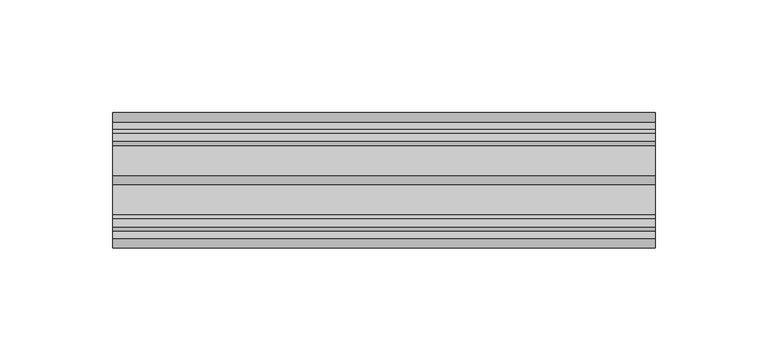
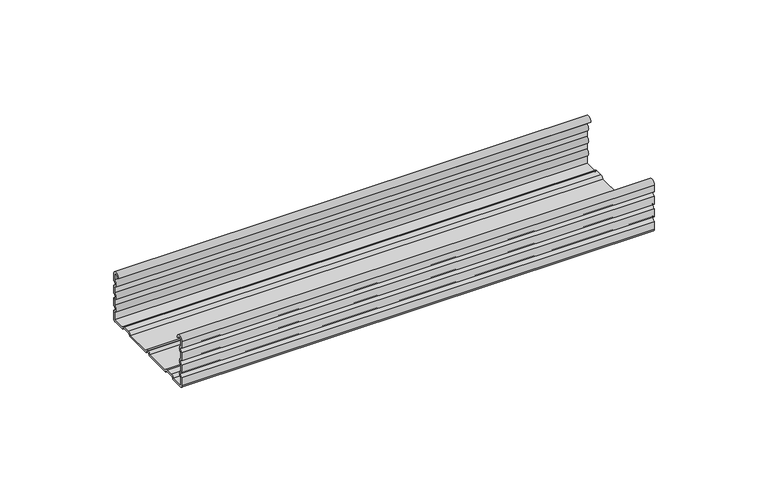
"""IFC4 building model written with IfcOpenShell, lengths in millimetres: proxy geometry, КНАУФ_Профильl ПП 60x27 : КНАУФ_Профильl ПП 60x27."""

from ifc_helpers import new_model, si_unit, point, frame, frame_2d, origin, origin_2d, place, context, project, spatial, polyline, circle_curve, trimmed, segment, composite_curve, outline, extrude, source, transform, mapped, element, save


def mechanical_equipment_f312fb64(model_context):
    return source(origin(), model_context, "Body", "SweptSolid", [
        extrude(outline(composite_curve([segment(trimmed(circle_curve(frame_2d((-27.9311762, 24.93)), 1.2688238), [point((-26.6623525, 24.93))], [point((-29.2, 24.93))], True, "CARTESIAN"), True, "CONTINUOUS"), segment(polyline([(-29.2, 24.93), (-29.2, 22.1840918)]), True, "CONTINUOUS"), segment(trimmed(circle_curve(frame_2d((-30.0, 20.25)), 2.0930149), [point((-29.2, 22.1840918))], [point((-29.2, 18.3159082))], False, "CARTESIAN"), True, "CONTINUOUS"), segment(polyline([(-29.2, 18.3159082), (-29.2, 15.4340918)]), True, "CONTINUOUS"), segment(trimmed(circle_curve(frame_2d((-30.0, 13.5)), 2.0930149), [point((-29.2, 15.4340918))], [point((-29.2, 11.5659082))], False, "CARTESIAN"), True, "CONTINUOUS"), segment(polyline([(-29.2, 11.5659082), (-29.2, 8.6840918)]), True, "CONTINUOUS"), segment(trimmed(circle_curve(frame_2d((-30.0, 6.75)), 2.0930149), [point((-29.2, 8.6840918))], [point((-29.2, 4.8159082))], False, "CARTESIAN"), True, "CONTINUOUS"), segment(polyline([(-29.2, 4.8159082), (-29.2, 0.8), (-22.6228064, 0.8)]), True, "CONTINUOUS"), segment(trimmed(circle_curve(frame_2d((-20.7668677, -0.1675758)), 2.0930149), [point((-22.6228064, 0.8))], [point((-20.7668677, 1.9254391))], False, "CARTESIAN"), True, "CONTINUOUS"), segment(polyline([(-20.7668677, 1.9254391), (-17.1471022, 1.9254391)]), True, "CONTINUOUS"), segment(trimmed(circle_curve(frame_2d((-17.1471022, -0.1675758)), 2.0930149), [point((-17.1471022, 1.9254391))], [point((-15.2911636, 0.8))], False, "CARTESIAN"), True, "CONTINUOUS"), segment(polyline([(-15.2911636, 0.8), (-1.9340918, 0.8)]), True, "CONTINUOUS"), segment(trimmed(circle_curve(origin_2d(), 2.0930149), [point((-1.9340918, 0.8))], [point((1.9340918, 0.8))], False, "CARTESIAN"), True, "CONTINUOUS"), segment(polyline([(1.9340918, 0.8), (15.2260576, 0.8)]), True, "CONTINUOUS"), segment(trimmed(circle_curve(frame_2d((17.1471022, -0.2768239)), 2.202263), [point((15.2260576, 0.8))], [point((17.1471022, 1.9254391))], False, "CARTESIAN"), True, "CONTINUOUS"), segment(polyline([(17.1471022, 1.9254391), (20.7668677, 1.9254391)]), True, "CONTINUOUS"), segment(trimmed(circle_curve(frame_2d((20.7668677, -0.1675758)), 2.0930149), [point((20.7668677, 1.9254391))], [point((22.6228064, 0.8))], False, "CARTESIAN"), True, "CONTINUOUS"), segment(polyline([(22.6228064, 0.8), (29.2, 0.8), (29.2, 4.8159082)]), True, "CONTINUOUS"), segment(trimmed(circle_curve(frame_2d((30.0, 6.75)), 2.0930149), [point((29.2, 4.8159082))], [point((29.2, 8.6840918))], False, "CARTESIAN"), True, "CONTINUOUS"), segment(polyline([(29.2, 8.6840918), (29.2, 11.5659082)]), True, "CONTINUOUS"), segment(trimmed(circle_curve(frame_2d((30.0, 13.5)), 2.0930149), [point((29.2, 11.5659082))], [point((29.2, 15.4340918))], False, "CARTESIAN"), True, "CONTINUOUS"), segment(polyline([(29.2, 15.4340918), (29.2, 18.3159082)]), True, "CONTINUOUS"), segment(trimmed(circle_curve(frame_2d((30.0, 20.25)), 2.0930149), [point((29.2, 18.3159082))], [point((29.2, 22.1840918))], False, "CARTESIAN"), True, "CONTINUOUS"), segment(polyline([(29.2, 22.1840918), (29.2, 24.9846466)]), True, "CONTINUOUS"), segment(trimmed(circle_curve(frame_2d((27.9311762, 24.93)), 1.27), [point((29.2, 24.9846466))], [point((26.6611762, 24.93))], True, "CARTESIAN"), True, "CONTINUOUS"), segment(polyline([(26.6611762, 24.93), (25.8611762, 24.93)]), True, "CONTINUOUS"), segment(trimmed(circle_curve(frame_2d((27.9311762, 24.93)), 2.07), [point((25.8611762, 24.93))], [point((30.0, 24.9997726))], False, "CARTESIAN"), True, "CONTINUOUS"), segment(polyline([(30.0, 24.9997726), (30.0, 21.5430149)]), True, "CONTINUOUS"), segment(trimmed(circle_curve(frame_2d((30.0, 20.25)), 1.2930149), [point((30.0, 21.5430149))], [point((30.0, 18.9569851))], True, "CARTESIAN"), True, "CONTINUOUS"), segment(polyline([(30.0, 18.9569851), (30.0, 14.7930149)]), True, "CONTINUOUS"), segment(trimmed(circle_curve(frame_2d((30.0, 13.5)), 1.2930149), [point((30.0, 14.7930149))], [point((30.0, 12.2069851))], True, "CARTESIAN"), True, "CONTINUOUS"), segment(polyline([(30.0, 12.2069851), (30.0, 8.0430149)]), True, "CONTINUOUS"), segment(trimmed(circle_curve(frame_2d((30.0, 6.75)), 1.2930149), [point((30.0, 8.0430149))], [point((30.0, 5.4569851))], True, "CARTESIAN"), True, "CONTINUOUS"), segment(polyline([(30.0, 5.4569851), (30.0, 1.2930149)]), True, "CONTINUOUS"), segment(trimmed(circle_curve(frame_2d((28.7069851, 1.2930149)), 1.2930149), [point((30.0, 1.2930149))], [point((28.7069851, 0.0))], False, "CARTESIAN"), True, "CONTINUOUS"), segment(polyline([(28.7069851, 0.0), (22.0489776, 0.0)]), True, "CONTINUOUS"), segment(trimmed(circle_curve(frame_2d((20.7668677, -0.1675758)), 1.2930149), [point((22.0489776, 0.0))], [point((20.7668677, 1.1254391))], True, "CARTESIAN"), True, "CONTINUOUS"), segment(polyline([(20.7668677, 1.1254391), (17.1471022, 1.1254391)]), True, "CONTINUOUS"), segment(trimmed(circle_curve(frame_2d((17.1471022, -0.2768239)), 1.402263), [point((17.1471022, 1.1254391))], [point((15.772435, 0.0))], True, "CARTESIAN"), True, "CONTINUOUS"), segment(polyline([(15.772435, 0.0), (1.2930149, 0.0)]), True, "CONTINUOUS"), segment(trimmed(circle_curve(origin_2d(), 1.2930149), [point((1.2930149, 0.0))], [point((-1.2930149, 0.0))], True, "CARTESIAN"), True, "CONTINUOUS"), segment(polyline([(-1.2930149, 0.0), (-15.8649924, 0.0)]), True, "CONTINUOUS"), segment(trimmed(circle_curve(frame_2d((-17.1471022, -0.1675758)), 1.2930149), [point((-15.8649924, 0.0))], [point((-17.1471022, 1.1254391))], True, "CARTESIAN"), True, "CONTINUOUS"), segment(polyline([(-17.1471022, 1.1254391), (-20.7668677, 1.1254391)]), True, "CONTINUOUS"), segment(trimmed(circle_curve(frame_2d((-20.7668677, -0.1675758)), 1.2930149), [point((-20.7668677, 1.1254391))], [point((-22.0489776, 0.0))], True, "CARTESIAN"), True, "CONTINUOUS"), segment(polyline([(-22.0489776, 0.0), (-28.7069851, 0.0)]), True, "CONTINUOUS"), segment(trimmed(circle_curve(frame_2d((-28.7069851, 1.2930149)), 1.2930149), [point((-28.7069851, 0.0))], [point((-30.0, 1.2930149))], False, "CARTESIAN"), True, "CONTINUOUS"), segment(polyline([(-30.0, 1.2930149), (-30.0, 5.4569851)]), True, "CONTINUOUS"), segment(trimmed(circle_curve(frame_2d((-30.0, 6.75)), 1.2930149), [point((-30.0, 5.4569851))], [point((-30.0, 8.0430149))], True, "CARTESIAN"), True, "CONTINUOUS"), segment(polyline([(-30.0, 8.0430149), (-30.0, 12.2069851)]), True, "CONTINUOUS"), segment(trimmed(circle_curve(frame_2d((-30.0, 13.5)), 1.2930149), [point((-30.0, 12.2069851))], [point((-30.0, 14.7930149))], True, "CARTESIAN"), True, "CONTINUOUS"), segment(polyline([(-30.0, 14.7930149), (-30.0, 18.9569851)]), True, "CONTINUOUS"), segment(trimmed(circle_curve(frame_2d((-30.0, 20.25)), 1.2930149), [point((-30.0, 18.9569851))], [point((-30.0, 21.5430149))], True, "CARTESIAN"), True, "CONTINUOUS"), segment(polyline([(-30.0, 21.5430149), (-30.0, 24.93)]), True, "CONTINUOUS"), segment(trimmed(circle_curve(frame_2d((-27.9311762, 24.93)), 2.0688238), [point((-30.0, 24.93))], [point((-25.8623525, 24.93))], False, "CARTESIAN"), True, "CONTINUOUS"), segment(polyline([(-25.8623525, 24.93), (-26.6623525, 24.93)]), True, "CONTINUOUS")], self_intersect=False)), frame((0.0, 0.0, 0.0), z_axis=(1.0, 0.0, 0.0), x_axis=(0.0, 1.0, 0.0)), (0.0, 0.0, 1.0), 240.0),
    ])


if __name__ == "__main__":
    model = new_model("IFC4")
    model_context = context("Model", 3, world=origin())
    ifc_project = project(units=[si_unit("LENGTHUNIT", "METRE", prefix="MILLI")], contexts=[model_context])
    site = spatial("IfcSite", under=ifc_project)
    building = spatial("IfcBuilding", under=site)
    placement = place(None, origin())
    mechanical_equipment_shape = mechanical_equipment_f312fb64(model_context)
    element("IfcBuildingElementProxy", 1, Name="КНАУФ_Профильl ПП 60x27 : КНАУФ_Профильl ПП 60x27", ObjectType="КНАУФ_Профильl ПП 60x27 : КНАУФ_Профильl ПП 60x27", at=placement, inside=building, context=model_context, shape_type="MappedRepresentation", body=[
        mapped(mechanical_equipment_shape, transform((0.0, 0.0, 0.0), x_axis=(1.0, 0.0, 0.0), y_axis=(0.0, 1.0, 0.0), z_axis=(0.0, 0.0, 1.0))),
    ])
    save(model, "model.ifc")
